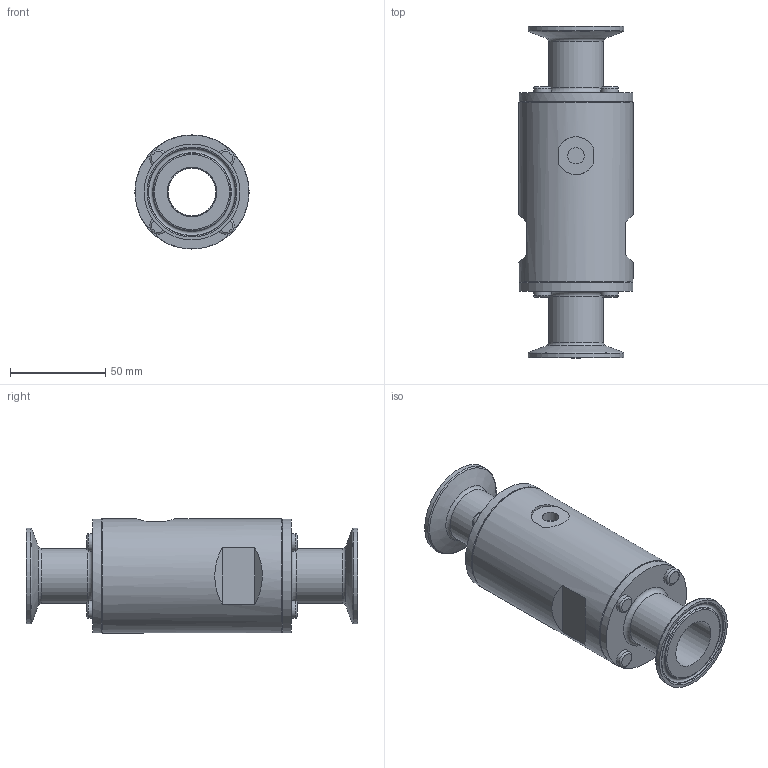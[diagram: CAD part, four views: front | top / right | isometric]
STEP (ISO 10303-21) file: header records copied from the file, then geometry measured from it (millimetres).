
FILE_DESCRIPTION(/* description */ (''),/* implementation_level */ '2;1');
FILE_NAME(/* name */ 'Serie80_QV25_assembly_VEREINFACHT_2.stp',/* time_stamp */ '2019-04-26T11:20:06+02:00',/* author */ (''),/* organization */ (''),/* preprocessor_version */ 'ST-DEVELOPER v16.7',/* originating_system */ 'SIEMENS PLM Software NX 12.0',/* authorisation */ '');
FILE_SCHEMA (('AUTOMOTIVE_DESIGN { 1 0 10303 214 3 1 1 1 }'));
Length unit declared in the file: millimetre
Products named in the file (1): Memd202C11CCk9mi
Bounding box: 60 x 174.6 x 60 mm (x, y, z)
Volume: 261662.2 mm3; surface area: 51957.6 mm2
Topology: 1 solids, 9 shells, 99 faces, 181 edges, 117 vertices
Faces by surface type: plane 40, cylinder 29, torus 20, cone 10
Full cylindrical faces by diameter (mm): 5.2 x8, 8.611 x1, 9.2 x8, 25 x1, 26 x2, 29 x2, 50.5 x2, 60 x3
Entity records: 1992 total; most frequent: DIRECTION 386, CARTESIAN_POINT 312, ORIENTED_EDGE 200, AXIS2_PLACEMENT_3D 188, EDGE_LOOP 176, FACE_BOUND 143, EDGE_CURVE 100, ADVANCED_FACE 99
